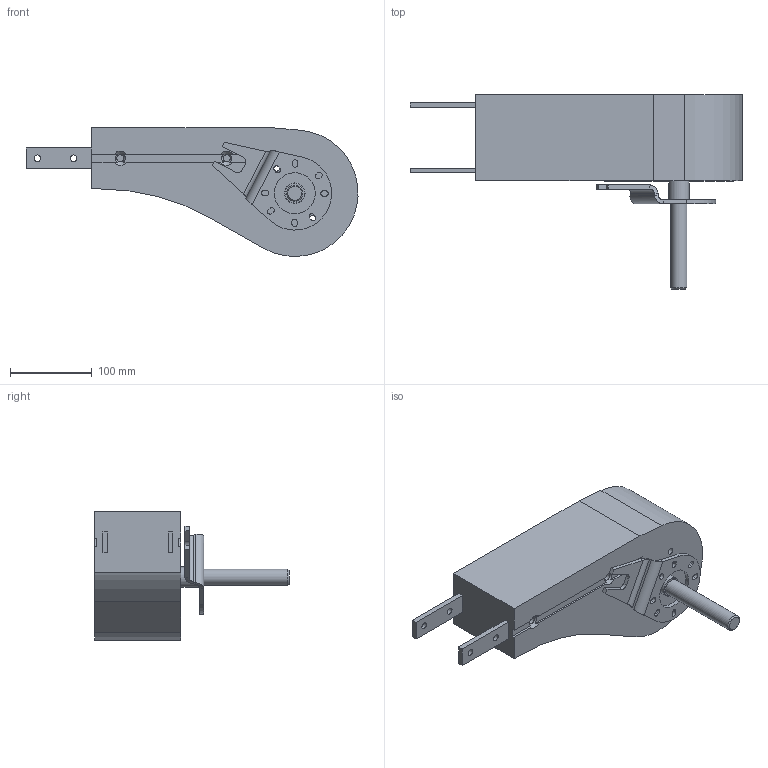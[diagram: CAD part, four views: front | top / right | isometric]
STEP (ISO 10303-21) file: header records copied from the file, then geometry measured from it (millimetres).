
FILE_DESCRIPTION(/* description */ ('Endantriebseinheit FH, heavy, ohne Rutschkupplung, rechts, geschlossen, direkt'),/* implementation_level */ '2;1');
FILE_NAME(/* name */ 'T:\vdz0\Step Daten Website\modulflex FH-System\Antriebseinheiten rechts - links\FHEB_HNRGP_44091.stp',/* time_stamp */ '2024-08-21T12:27:32+02:00',/* author */ ('vdz0'),/* organization */ ('modular automation GmbH'),/* preprocessor_version */ 'ST-DEVELOPER v18.1',/* originating_system */ 'Autodesk Inventor 2021',/* authorisation */ '');
FILE_SCHEMA (('CONFIG_CONTROL_DESIGN'));
Length unit declared in the file: millimetre
Products named in the file (1): FHEB_HNRGP_44091
Bounding box: 405.12 x 237.1 x 157.4 mm (x, y, z)
Volume: 3846025.6 mm3; surface area: 211603.3 mm2
Topology: 2 solids, 3 shells, 137 faces, 354 edges, 228 vertices
Faces by surface type: plane 77, cylinder 44, cone 12, bspline 4
Full cylindrical faces by diameter (mm): 8 x8, 8.5 x6, 20 x1, 25 x1, 50 x1
Entity records: 4758 total; most frequent: CARTESIAN_POINT 1192, ORIENTED_EDGE 708, DIRECTION 702, EDGE_CURVE 354, AXIS2_PLACEMENT_3D 238, VERTEX_POINT 228, LINE 226, VECTOR 226
